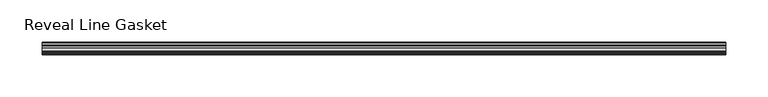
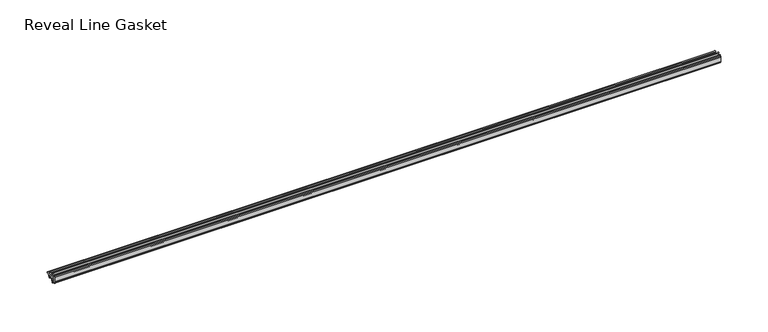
"""IFC4 building model written with IfcOpenShell, lengths in millimetres: proxy geometry, Accessories-Teknion-FHGR-AI_Healthcare-Reveal_Line_Gasket(Horizontal)-R2022 : Reveal Line Gasket."""

from ifc_helpers import new_model, si_unit, point, frame, frame_2d, origin, place, context, project, spatial, polyline, circle_curve, trimmed, segment, composite_curve, outline, extrude, source, transform, mapped, element, save


def reveal_line_gasket_ade2e0d5(model_context):
    return source(origin(), model_context, "Body", "SweptSolid", [
        extrude(outline(composite_curve([segment(polyline([(-7.6326998, 1603.2), (-7.4091917, 1604.1554927), (-6.8813059, 1605.0884684)]), True, "CONTINUOUS"), segment(trimmed(circle_curve(frame_2d((-6.5243141, 1604.8864793)), 0.4101739), [point((-6.8813059, 1605.0884684))], [point((-6.1246704, 1604.7941347))], False, "CARTESIAN"), True, "CONTINUOUS"), segment(polyline([(-6.1246704, 1604.7941347), (-6.3626997, 1603.0979086), (-6.3626997, 1601.0654527)]), True, "CONTINUOUS"), segment(trimmed(circle_curve(frame_2d((-5.6959605, 1601.4819258)), 0.786124), [point((-6.3626997, 1601.0654527))], [point((-5.0926996, 1600.977875))], True, "CARTESIAN"), True, "CONTINUOUS"), segment(polyline([(-5.0926996, 1600.977875), (-0.7492996, 1600.977875), (-3.7293824, 1606.1395295)]), True, "CONTINUOUS"), segment(trimmed(circle_curve(frame_2d((-3.3132479, 1606.2049761)), 0.4212495), [point((-3.7293824, 1606.1395295))], [point((-3.0485022, 1606.5326358))], False, "CARTESIAN"), True, "CONTINUOUS"), segment(polyline([(-3.0485022, 1606.5326358), (0.5742594, 1600.977875), (4.8262978, 1600.977875), (3.1660374, 1603.8535297)]), True, "CONTINUOUS"), segment(trimmed(circle_curve(frame_2d((3.5978728, 1603.9118855)), 0.4357605), [point((3.1660374, 1603.8535297))], [point((3.864328, 1604.2566881))], False, "CARTESIAN"), True, "CONTINUOUS"), segment(polyline([(3.864328, 1604.2566881), (6.1944059, 1600.977875), (7.6326998, 1600.977875), (7.6326998, 1599.422125), (6.1944059, 1599.422125), (3.864328, 1596.1433119)]), True, "CONTINUOUS"), segment(trimmed(circle_curve(frame_2d((3.5978728, 1596.4881145)), 0.4357605), [point((3.864328, 1596.1433119))], [point((3.1660374, 1596.5464703))], False, "CARTESIAN"), True, "CONTINUOUS"), segment(polyline([(3.1660374, 1596.5464703), (4.8262978, 1599.422125), (0.5742594, 1599.422125), (-3.0485022, 1593.8673642)]), True, "CONTINUOUS"), segment(trimmed(circle_curve(frame_2d((-3.3132479, 1594.1950239)), 0.4212495), [point((-3.0485022, 1593.8673642))], [point((-3.7293824, 1594.2604705))], False, "CARTESIAN"), True, "CONTINUOUS"), segment(polyline([(-3.7293824, 1594.2604705), (-0.7492996, 1599.422125), (-5.0926996, 1599.422125)]), True, "CONTINUOUS"), segment(trimmed(circle_curve(frame_2d((-5.6959605, 1598.9180742)), 0.786124), [point((-5.0926996, 1599.422125))], [point((-6.3626997, 1599.3345473))], True, "CARTESIAN"), True, "CONTINUOUS"), segment(polyline([(-6.3626997, 1599.3345473), (-6.3626997, 1597.3020914), (-6.1246704, 1595.6058653)]), True, "CONTINUOUS"), segment(trimmed(circle_curve(frame_2d((-6.5243141, 1595.5135207)), 0.4101739), [point((-6.1246704, 1595.6058653))], [point((-6.8813059, 1595.3115316))], False, "CARTESIAN"), True, "CONTINUOUS"), segment(polyline([(-6.8813059, 1595.3115316), (-7.4091917, 1596.2445073), (-7.6326998, 1597.2), (-7.6326998, 1603.2)]), True, "CONTINUOUS")], self_intersect=False)), frame((-406.3582328, 0.0, 0.0), z_axis=(1.0, 0.0, 0.0), x_axis=(0.0, 1.0, 0.0)), (0.0, 0.0, 1.0), 812.7164656),
    ])


if __name__ == "__main__":
    model = new_model("IFC4")
    model_context = context("Model", 3, world=origin())
    ifc_project = project(units=[si_unit("LENGTHUNIT", "METRE", prefix="MILLI")], contexts=[model_context])
    site = spatial("IfcSite", under=ifc_project)
    building = spatial("IfcBuilding", under=site)
    placement = place(None, origin())
    reveal_line_gasket_shape = reveal_line_gasket_ade2e0d5(model_context)
    element("IfcBuildingElementProxy", 1, Name="Accessories-Teknion-FHGR-AI_Healthcare-Reveal_Line_Gasket(Horizontal)-R2022 : Reveal Line Gasket", ObjectType="Accessories-Teknion-FHGR-AI_Healthcare-Reveal_Line_Gasket(Horizontal)-R2022 : Reveal Line Gasket", at=placement, inside=building, context=model_context, shape_type="MappedRepresentation", body=[
        mapped(reveal_line_gasket_shape, transform((0.0, 0.0, 0.0), x_axis=(1.0, 0.0, 0.0), y_axis=(0.0, 1.0, 0.0), z_axis=(0.0, 0.0, 1.0))),
    ])
    save(model, "model.ifc")
